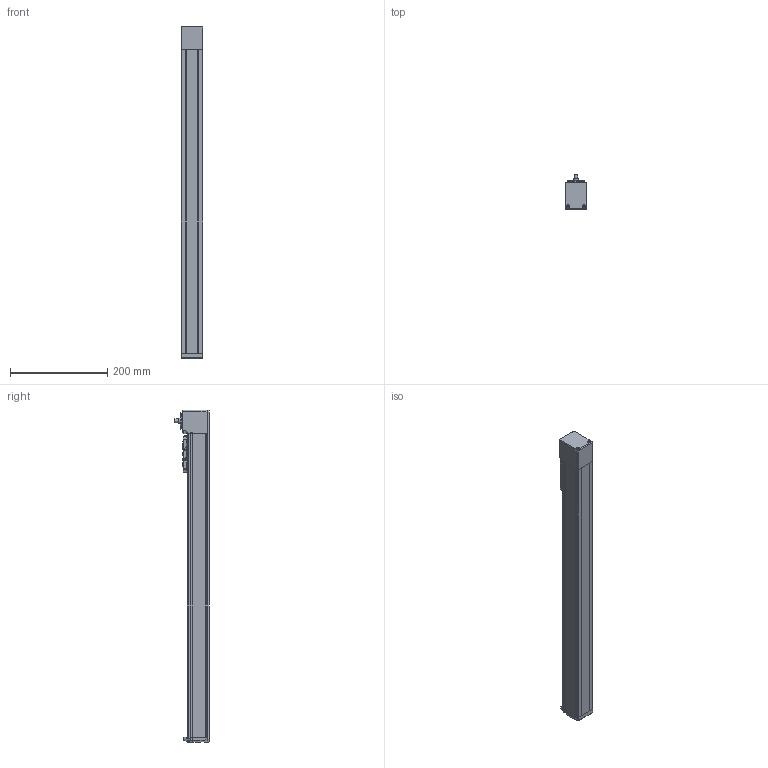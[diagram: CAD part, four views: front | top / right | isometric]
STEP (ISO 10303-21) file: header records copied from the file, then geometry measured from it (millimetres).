
FILE_DESCRIPTION(/* description */ ('STEP AP214'),/* implementation_level */ '2;1');
FILE_NAME(/* name */ 'MGTB 45 500(0)',/* time_stamp */ '2023-04-17T13:45:06+02:00',/* author */ ('License CC BY-ND 4.0'),/* organization */ ('CADENAS'),/* preprocessor_version */ 'ST-DEVELOPER v19.3',/* originating_system */ 'PARTsolutions',/* authorisation */ ' ');
FILE_SCHEMA (('AUTOMOTIVE_DESIGN {1 0 10303 214 3 1 1}'));
Length unit declared in the file: millimetre
Products named in the file (6): MGTB 45 500(0); MGTB 45 500_protection_strip; MGTB 45_carriage; MGTB 45_end_block; MGTB 45 500_profile; MGTB 45_drive_block
Assembly tree (5 placements, depth 2):
  MGTB 45 500(0)
    MGTB 45 500_protection_strip
    MGTB 45_carriage
    MGTB 45_end_block
    MGTB 45 500_profile
    MGTB 45_drive_block
Bounding box: 45 x 70.85 x 683 mm (x, y, z)
Volume: 1355220.6 mm3; surface area: 214719.4 mm2
Topology: 5 solids, 5 shells, 689 faces, 1789 edges, 1148 vertices
Faces by surface type: plane 324, cylinder 173, cone 95, bspline 68, torus 27, sphere 2
Full cylindrical faces by diameter (mm): 1.755 x4, 2.459 x10, 2.5 x6, 3 x6, 3.242 x8, 3.8 x6, 4 x2, 4.5 x2, 5.5 x4, 6.5 x4, 8 x1, 11 x3, 12 x1, 17.12 x1, 17.5 x1, 22.5 x1, 22.88 x1, 24.5 x1, 28 x1, 34 x2
Entity records: 25091 total; most frequent: CARTESIAN_POINT 4283, DIRECTION 3440, ORIENTED_EDGE 3206, EDGE_CURVE 1603, AXIS2_PLACEMENT_3D 1244, VERTEX_POINT 1133, LINE 952, VECTOR 952
